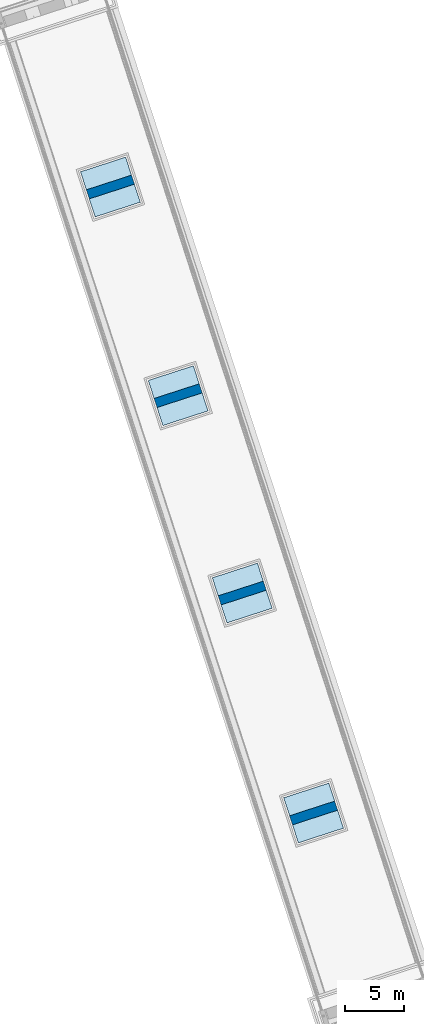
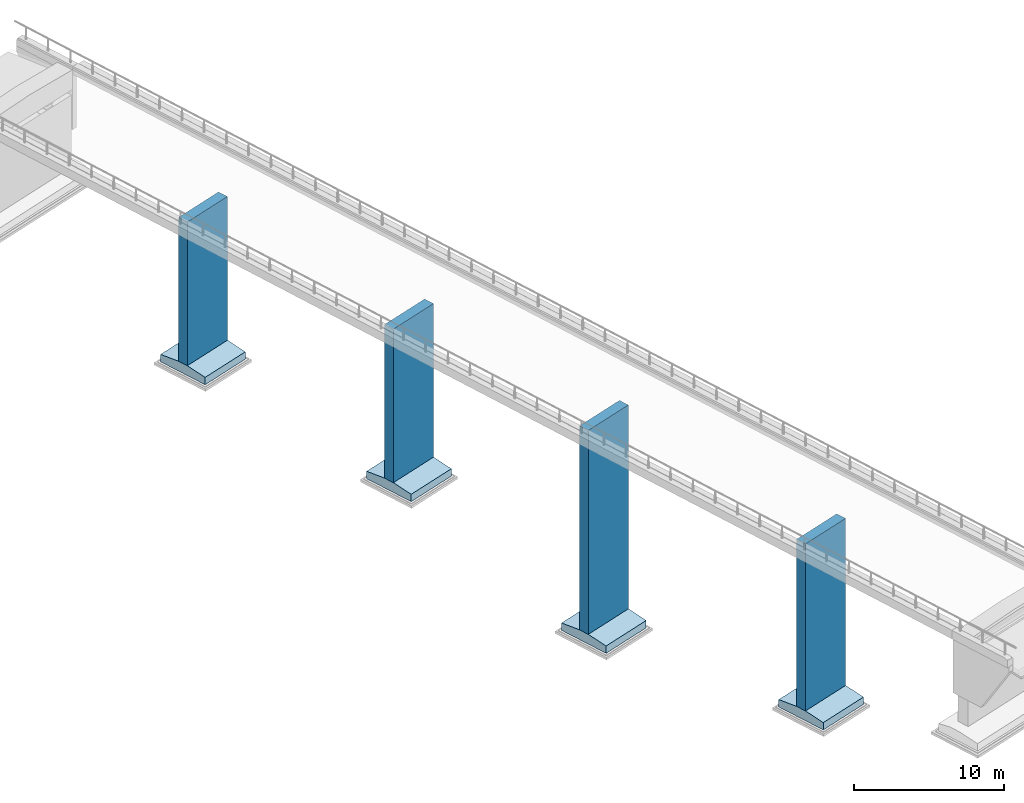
# Not in any storey, part 1 of 10: 4 columns, 4 footings.
"""IFC4X3_ADD2 model written with IfcOpenShell, lengths in metres."""

from ifc_helpers import new_model, entity, si_unit, converted_unit, derived_unit, direction, frame, origin, origin_2d, place, context, subcontext, project, library, spatial, rectangle, extrude, polygons, element, save


model = new_model("IFC4X3_ADD2")

# Units and contexts
model_context = context("Model", 3, precision=1e-05, world=origin(), true_north=direction((-0.011993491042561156, 0.9999280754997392)))
plan_context = context("Plan", 2, precision=1e-05, world=origin_2d())
body_context = subcontext(model_context, "Body", "Model", "MODEL_VIEW")
ifc_project = project(units=[si_unit("LENGTHUNIT", "METRE"), si_unit("AREAUNIT", "SQUARE_METRE"), si_unit("VOLUMEUNIT", "CUBIC_METRE"), si_unit("MASSUNIT", "GRAM", prefix="KILO"), converted_unit("TIMEUNIT", "year", entity("IfcTimeMeasure", 31557600.0), si_unit("TIMEUNIT", "SECOND"), dimensions=[0, 0, 1, 0, 0, 0, 0]), si_unit("PLANEANGLEUNIT", "RADIAN"), si_unit("THERMODYNAMICTEMPERATUREUNIT", "DEGREE_CELSIUS"), si_unit("FORCEUNIT", "NEWTON", prefix="KILO"), si_unit("PRESSUREUNIT", "PASCAL", prefix="MEGA"), si_unit("SOLIDANGLEUNIT", "STERADIAN"), derived_unit("MASSDENSITYUNIT", [(si_unit("MASSUNIT", "GRAM", prefix="KILO"), 1), (si_unit("VOLUMEUNIT", "CUBIC_METRE"), -1)]), derived_unit("MODULUSOFELASTICITYUNIT", [(si_unit("PRESSUREUNIT", "PASCAL", prefix="MEGA"), 1)]), derived_unit("THERMALEXPANSIONCOEFFICIENTUNIT", [(si_unit("THERMODYNAMICTEMPERATUREUNIT", "DEGREE_CELSIUS"), -1)])], contexts=[model_context, plan_context])
project_library = library(declared=ifc_project)

# Site, bridge, bridge parts
site_placement = place(None, origin())
site = spatial("IfcSite", under=ifc_project, at=site_placement, Name="Site BR-01", CompositionType="ELEMENT")
bridge_placement = place(site_placement, origin())
bridge = spatial("IfcBridge", under=site, at=bridge_placement, Name="BR-01", CompositionType="ELEMENT", PredefinedType="USERDEFINED")
bridge_part_1_placement = place(bridge_placement, origin())
bridge_part_1 = spatial("IfcBridgePart", under=bridge, at=bridge_part_1_placement, Name="Substructure", CompositionType="ELEMENT", PredefinedType="SUBSTRUCTURE", UsageType="VERTICAL")
bridge_part_2_placement = place(bridge_part_1_placement, frame((0.0, 0.0, 50.25)))
bridge_part_2 = spatial("IfcBridgePart", under=bridge_part_1, at=bridge_part_2_placement, Name="P1", CompositionType="ELEMENT", PredefinedType="PIER", UsageType="VERTICAL")

# Footing
footing_1_placement = place(bridge_part_2_placement, frame((19.61919403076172, 98.33071517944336, 0.25), z_axis=(0.0, 0.0, 1.0), x_axis=(0.3088039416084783, -0.951125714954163, 0.0)))
element("IfcFooting", 1, at=footing_1_placement, inside=bridge_part_2, Name="Pier pad footing P1", PredefinedType="PAD_FOOTING", context=body_context, shape_type="Tessellation", body=[
    polygons([(2.0, 1.99999, 0.0), (2.0, 1.99999, 0.6), (1.99999, -2.00001, 0.6), (1.99999, -2.00001, 0.0), (0.4, 2.0, 0.8), (0.39999, -2.0, 0.8), (-0.39999, 2.0, 0.8), (-0.40001, -2.0, 0.8), (-1.99999, 2.00001, 0.6), (-2.0, -1.99999, 0.6), (-1.99999, 2.00001, 0.0), (-2.0, -1.99999, 0.0)], [[[1, 2, 3, 4]], [[2, 5, 6, 3]], [[5, 7, 8, 6]], [[7, 9, 10, 8]], [[9, 11, 12, 10]], [[10, 6, 8]], [[10, 3, 6]], [[3, 10, 12, 4]], [[1, 11, 9, 2]], [[9, 7, 5, 2]], [[11, 1, 4, 12]]], closed=True),
])

# Bridge part
bridge_part_3_placement = place(bridge_part_1_placement, frame((0.0, 0.0, 49.4)))
bridge_part_3 = spatial("IfcBridgePart", under=bridge_part_1, at=bridge_part_3_placement, Name="P2", CompositionType="ELEMENT", PredefinedType="PIER", UsageType="VERTICAL")

# Footing
footing_2_placement = place(bridge_part_3_placement, frame((25.332021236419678, 80.7348747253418, 0.25), z_axis=(0.0, 0.0, 1.0), x_axis=(0.3088039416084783, -0.951125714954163, 0.0)))
element("IfcFooting", 2, at=footing_2_placement, inside=bridge_part_3, Name="Pier pad footing P2", PredefinedType="PAD_FOOTING", context=body_context, shape_type="Tessellation", body=[
    polygons([(2.0, 2.0, 0.0), (2.0, 2.0, 0.6), (1.99999, -2.00001, 0.6), (1.99999, -2.00001, 0.0), (0.40001, 2.0, 0.8), (0.4, -2.0, 0.8), (-0.4, 2.0, 0.8), (-0.40001, -2.0, 0.8), (-1.99999, 2.00001, 0.6), (-2.0, -2.0, 0.6), (-1.99999, 2.00001, 0.0), (-2.0, -2.0, 0.0)], [[[1, 2, 3, 4]], [[2, 5, 6, 3]], [[5, 7, 8, 6]], [[7, 9, 10, 8]], [[9, 11, 12, 10]], [[10, 3, 8]], [[8, 3, 6]], [[3, 10, 12, 4]], [[1, 11, 9, 2]], [[9, 7, 5, 2]], [[11, 1, 4, 12]]], closed=True),
])

# Bridge part
bridge_part_4_placement = place(bridge_part_1_placement, frame((0.0, 0.0, 45.25)))
bridge_part_4 = spatial("IfcBridgePart", under=bridge_part_1, at=bridge_part_4_placement, Name="P3", CompositionType="ELEMENT", PredefinedType="PIER", UsageType="VERTICAL")

# Footing
footing_3_placement = place(bridge_part_4_placement, frame((30.73604676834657, 64.09016043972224, 0.25), z_axis=(0.0, 0.0, 1.0), x_axis=(0.3088039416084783, -0.951125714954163, 0.0)))
element("IfcFooting", 3, at=footing_3_placement, inside=bridge_part_4, Name="Pier pad footing P3", PredefinedType="PAD_FOOTING", context=body_context, shape_type="Tessellation", body=[
    polygons([(2.0, 2.0, 0.0), (2.0, 2.0, 0.6), (1.99999, -2.0, 0.6), (1.99999, -2.0, 0.0), (0.40001, 2.0, 0.8), (0.4, -2.0, 0.8), (-0.4, 2.0, 0.8), (-0.40001, -2.0, 0.8), (-1.99999, 2.0, 0.6), (-2.0, -2.0, 0.6), (-1.99999, 2.0, 0.0), (-2.0, -2.0, 0.0)], [[[1, 2, 3, 4]], [[2, 5, 6, 3]], [[5, 7, 8, 6]], [[7, 9, 10, 8]], [[9, 11, 12, 10]], [[10, 3, 8]], [[8, 3, 6]], [[3, 10, 12, 4]], [[1, 11, 9, 2]], [[9, 7, 5, 2]], [[11, 1, 4, 12]]], closed=True),
])

# Bridge part
bridge_part_5_placement = place(bridge_part_1_placement, frame((0.0, 0.0, 48.15)))
bridge_part_5 = spatial("IfcBridgePart", under=bridge_part_1, at=bridge_part_5_placement, Name="P4", CompositionType="ELEMENT", PredefinedType="PIER", UsageType="VERTICAL")

# Footing
footing_4_placement = place(bridge_part_5_placement, frame((36.757675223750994, 45.54319381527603, 0.25), z_axis=(0.0, 0.0, 1.0), x_axis=(0.3088039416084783, -0.951125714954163, 0.0)))
element("IfcFooting", 4, at=footing_4_placement, inside=bridge_part_5, Name="Pier pad footing P4", PredefinedType="PAD_FOOTING", context=body_context, shape_type="Tessellation", body=[
    polygons([(2.00001, 1.99999, 0.0), (2.00001, 1.99999, 0.6), (1.99999, -2.00001, 0.6), (1.99999, -2.00001, 0.0), (0.40001, 2.0, 0.8), (0.4, -2.0, 0.8), (-0.39999, 2.0, 0.8), (-0.40001, -2.0, 0.8), (-1.99999, 2.00001, 0.6), (-2.00001, -1.99999, 0.6), (-1.99999, 2.00001, 0.0), (-2.00001, -1.99999, 0.0)], [[[1, 2, 3, 4]], [[2, 5, 6, 3]], [[5, 7, 8, 6]], [[7, 9, 10, 8]], [[9, 11, 12, 10]], [[10, 3, 8]], [[8, 3, 6]], [[3, 10, 12, 4]], [[2, 9, 7]], [[1, 11, 9, 2]], [[2, 7, 5]], [[11, 1, 4, 12]]], closed=True),
])

# Columns
column_1_placement = place(bridge_part_2_placement, frame((19.61919403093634, 98.33071708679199, 1.0499992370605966), z_axis=(0.0, 0.0, 1.0), x_axis=(0.3088039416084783, -0.951125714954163, 0.0)))
element("IfcColumn", 5, at=column_1_placement, inside=bridge_part_2, Name="Pier wall P1", PredefinedType="PIERSTEM", context=body_context, shape_type="SweptSolid", body=[
    extrude(rectangle(XDim=0.8, YDim=4.0), frame((3.979655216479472e-10, -1.5224776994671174e-10, 0.0)), (0.0, 0.0, 1.0), 11.700000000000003),
])
column_2_placement = place(bridge_part_3_placement, frame((25.332020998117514, 80.73487472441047, 1.0499992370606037), z_axis=(0.0, 0.0, 1.0), x_axis=(0.3088039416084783, -0.951125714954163, 0.0)))
element("IfcColumn", 6, at=column_2_placement, inside=bridge_part_3, Name="Pier wall P2", PredefinedType="PIERSTEM", context=body_context, shape_type="SweptSolid", body=[
    extrude(rectangle(XDim=0.8, YDim=4.0), frame((-4.0245920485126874e-10, 1.3840706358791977e-10, 0.0)), (0.0, 0.0, 1.0), 12.5),
])
column_3_placement = place(bridge_part_4_placement, frame((30.7360466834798, 64.09016033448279, 1.0499992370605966), z_axis=(0.0, 0.0, 1.0), x_axis=(0.3088039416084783, -0.951125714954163, 0.0)))
element("IfcColumn", 7, at=column_3_placement, inside=bridge_part_4, Name="Pier wall P3", PredefinedType="PIERSTEM", context=body_context, shape_type="SweptSolid", body=[
    extrude(rectangle(XDim=0.8, YDim=4.0), frame((4.473961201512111e-10, -1.299571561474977e-10, 0.0)), (0.0, 0.0, 1.0), 16.6),
])
column_4_placement = place(bridge_part_5_placement, frame((36.757674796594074, 45.54319465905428, 1.0499992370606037), z_axis=(0.0, 0.0, 1.0), x_axis=(0.3088039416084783, -0.951125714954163, 0.0)))
element("IfcColumn", 8, at=column_4_placement, inside=bridge_part_5, Name="Pier wall P4", PredefinedType="PIERSTEM", context=body_context, shape_type="SweptSolid", body=[
    extrude(rectangle(XDim=0.8, YDim=4.0), frame((-4.493738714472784e-12, 0.0, 0.0)), (0.0, 0.0, 1.0), 13.600000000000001),
])

save(model, "model.ifc")
